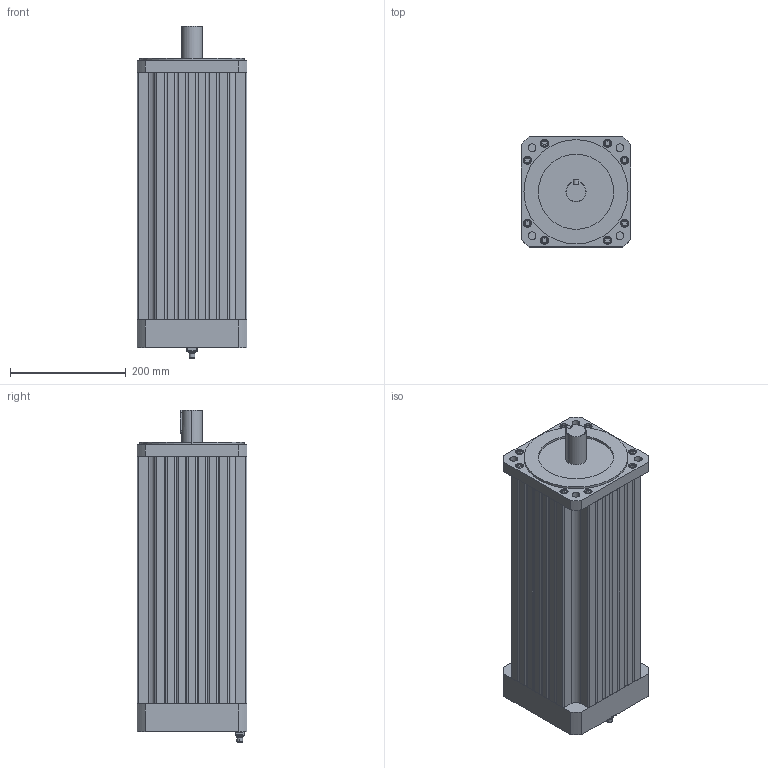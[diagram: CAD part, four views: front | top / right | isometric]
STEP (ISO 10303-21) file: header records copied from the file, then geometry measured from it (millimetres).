
FILE_DESCRIPTION (( 'STEP AP203' ), '1' );
FILE_NAME ('BTS190-75D3A2-EXD.STEP', '2023-05-18T05:15:20', ( 'Admin' ), ( '' ), 'SwSTEP 2.0', 'SolidWorks 2021', '' );
FILE_SCHEMA (( 'CONFIG_CONTROL_DESIGN' ));
Length unit declared in the file: millimetre
Products named in the file (1): BTS190-75D3A2-EXD
Bounding box: 190 x 190 x 574 mm (x, y, z)
Volume: 16264187.2 mm3; surface area: 627516.4 mm2
Topology: 15 solids, 16 shells, 516 faces, 1248 edges, 804 vertices
Faces by surface type: plane 287, cylinder 174, torus 34, cone 21
Entity records: 15048 total; most frequent: DIRECTION 2679, CARTESIAN_POINT 2595, ORIENTED_EDGE 2460, EDGE_CURVE 1230, AXIS2_PLACEMENT_3D 936, VECTOR 807, LINE 807, VERTEX_POINT 804
